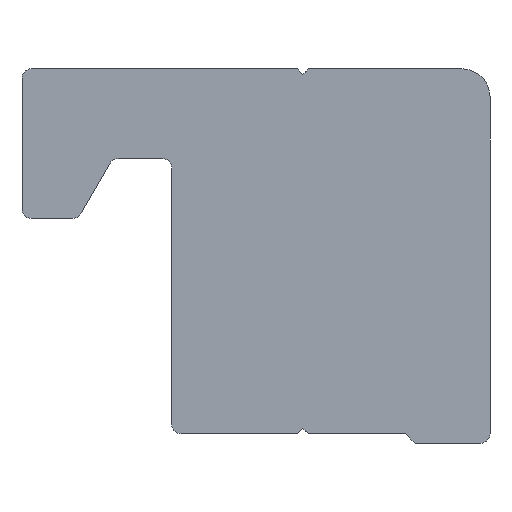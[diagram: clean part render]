
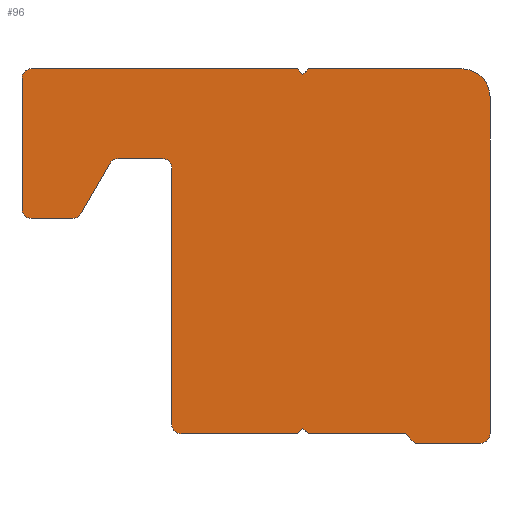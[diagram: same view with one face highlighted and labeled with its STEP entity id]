
A CAD part, front view. The second image highlights one B-rep face of the part: STEP entity #96.
In plain terms, the highlighted planar face has unit normal (0, -1, 0).
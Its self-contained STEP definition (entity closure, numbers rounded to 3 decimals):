
#96=ADVANCED_FACE('',(#210),#211,.T.);
#210=FACE_OUTER_BOUND('',#343,.T.);
#211=PLANE('',#344);
#343=EDGE_LOOP('',(#555,#556,#557,#558,#559,#560,#561,#562,#563,#564,#565,#566,#567,#568,#569,#570,#571,#572,#573,#574,#575,#576,#577,#578));
#344=AXIS2_PLACEMENT_3D('',#579,#580,#581);
#555=ORIENTED_EDGE('',*,*,#882,.T.);
#556=ORIENTED_EDGE('',*,*,#883,.T.);
#557=ORIENTED_EDGE('',*,*,#884,.T.);
#558=ORIENTED_EDGE('',*,*,#853,.T.);
#559=ORIENTED_EDGE('',*,*,#876,.T.);
#560=ORIENTED_EDGE('',*,*,#885,.T.);
#561=ORIENTED_EDGE('',*,*,#886,.T.);
#562=ORIENTED_EDGE('',*,*,#865,.T.);
#563=ORIENTED_EDGE('',*,*,#887,.T.);
#564=ORIENTED_EDGE('',*,*,#833,.T.);
#565=ORIENTED_EDGE('',*,*,#826,.T.);
#566=ORIENTED_EDGE('',*,*,#869,.T.);
#567=ORIENTED_EDGE('',*,*,#808,.T.);
#568=ORIENTED_EDGE('',*,*,#888,.T.);
#569=ORIENTED_EDGE('',*,*,#889,.T.);
#570=ORIENTED_EDGE('',*,*,#890,.T.);
#571=ORIENTED_EDGE('',*,*,#838,.T.);
#572=ORIENTED_EDGE('',*,*,#891,.T.);
#573=ORIENTED_EDGE('',*,*,#879,.T.);
#574=ORIENTED_EDGE('',*,*,#817,.T.);
#575=ORIENTED_EDGE('',*,*,#861,.T.);
#576=ORIENTED_EDGE('',*,*,#892,.T.);
#577=ORIENTED_EDGE('',*,*,#847,.T.);
#578=ORIENTED_EDGE('',*,*,#893,.T.);
#579=CARTESIAN_POINT('',(0.5,0.,-14.2));
#580=DIRECTION('',(0.0,-1.0,0.0));
#581=DIRECTION('',(1.0,0.0,0.0));
#808=EDGE_CURVE('',#957,#962,#964,.T.);
#817=EDGE_CURVE('',#980,#978,#981,.T.);
#826=EDGE_CURVE('',#996,#994,#997,.T.);
#833=EDGE_CURVE('',#1008,#996,#1009,.T.);
#838=EDGE_CURVE('',#1017,#1015,#1018,.T.);
#847=EDGE_CURVE('',#1032,#1030,#1033,.T.);
#853=EDGE_CURVE('',#1036,#1041,#1043,.T.);
#861=EDGE_CURVE('',#978,#1053,#1055,.T.);
#865=EDGE_CURVE('',#1062,#1060,#1063,.T.);
#869=EDGE_CURVE('',#994,#957,#1067,.T.);
#876=EDGE_CURVE('',#1041,#1076,#1078,.T.);
#879=EDGE_CURVE('',#1082,#980,#1083,.T.);
#882=EDGE_CURVE('',#1086,#1087,#1088,.T.);
#883=EDGE_CURVE('',#1087,#1089,#1090,.T.);
#884=EDGE_CURVE('',#1089,#1036,#1091,.T.);
#885=EDGE_CURVE('',#1076,#1092,#1093,.T.);
#886=EDGE_CURVE('',#1092,#1062,#1094,.T.);
#887=EDGE_CURVE('',#1060,#1008,#1095,.T.);
#888=EDGE_CURVE('',#962,#1096,#1097,.T.);
#889=EDGE_CURVE('',#1096,#1098,#1099,.T.);
#890=EDGE_CURVE('',#1098,#1017,#1100,.T.);
#891=EDGE_CURVE('',#1015,#1082,#1101,.T.);
#892=EDGE_CURVE('',#1053,#1032,#1102,.T.);
#893=EDGE_CURVE('',#1030,#1086,#1103,.T.);
#957=VERTEX_POINT('',#1185);
#962=VERTEX_POINT('',#1191);
#964=LINE('',#1194,#1195);
#978=VERTEX_POINT('',#1213);
#980=VERTEX_POINT('',#1216);
#981=LINE('',#1217,#1218);
#994=VERTEX_POINT('',#1233);
#996=VERTEX_POINT('',#1236);
#997=LINE('',#1237,#1238);
#1008=VERTEX_POINT('',#1252);
#1009=CIRCLE('',#1253,1.5);
#1015=VERTEX_POINT('',#1260);
#1017=VERTEX_POINT('',#1263);
#1018=CIRCLE('',#1264,0.5);
#1030=VERTEX_POINT('',#1278);
#1032=VERTEX_POINT('',#1281);
#1033=CIRCLE('',#1282,0.5);
#1036=VERTEX_POINT('',#1286);
#1041=VERTEX_POINT('',#1292);
#1043=LINE('',#1295,#1296);
#1053=VERTEX_POINT('',#1308);
#1055=CIRCLE('',#1311,0.5);
#1060=VERTEX_POINT('',#1316);
#1062=VERTEX_POINT('',#1319);
#1063=CIRCLE('',#1320,0.5);
#1067=LINE('',#1325,#1326);
#1076=VERTEX_POINT('',#1337);
#1078=LINE('',#1340,#1341);
#1082=VERTEX_POINT('',#1345);
#1083=CIRCLE('',#1346,0.5);
#1086=VERTEX_POINT('',#1350);
#1087=VERTEX_POINT('',#1351);
#1088=CIRCLE('',#1352,0.5);
#1089=VERTEX_POINT('',#1353);
#1090=LINE('',#1354,#1355);
#1091=LINE('',#1356,#1357);
#1092=VERTEX_POINT('',#1358);
#1093=LINE('',#1359,#1360);
#1094=LINE('',#1361,#1362);
#1095=LINE('',#1363,#1364);
#1096=VERTEX_POINT('',#1365);
#1097=LINE('',#1366,#1367);
#1098=VERTEX_POINT('',#1368);
#1099=CIRCLE('',#1369,0.5);
#1100=LINE('',#1370,#1371);
#1101=LINE('',#1372,#1373);
#1102=LINE('',#1374,#1375);
#1103=LINE('',#1376,#1377);
#1185=CARTESIAN_POINT('',(7.,0.,4.5));
#1191=CARTESIAN_POINT('',(6.7,0.,4.8));
#1194=CARTESIAN_POINT('',(7.,0.,4.5));
#1195=VECTOR('',#1485,1.0);
#1213=CARTESIAN_POINT('',(-3.297,0.,-0.25));
#1216=CARTESIAN_POINT('',(-4.856,0.,-2.95));
#1217=CARTESIAN_POINT('',(-4.856,0.,-2.95));
#1218=VECTOR('',#1494,1.0);
#1233=CARTESIAN_POINT('',(7.3,0.,4.8));
#1236=CARTESIAN_POINT('',(15.5,0.,4.8));
#1237=CARTESIAN_POINT('',(15.5,0.,4.8));
#1238=VECTOR('',#1507,1.0);
#1252=CARTESIAN_POINT('',(17.,0.,3.3));
#1253=AXIS2_PLACEMENT_3D('',#1517,#1518,#1519);
#1260=CARTESIAN_POINT('',(-7.5,0.,-3.2));
#1263=CARTESIAN_POINT('',(-8.,0.,-2.7));
#1264=AXIS2_PLACEMENT_3D('',#1525,#1526,#1527);
#1278=CARTESIAN_POINT('',(0.,0.,-0.5));
#1281=CARTESIAN_POINT('',(-0.5,0.,0.));
#1282=AXIS2_PLACEMENT_3D('',#1540,#1541,#1542);
#1286=CARTESIAN_POINT('',(7.,0.,-14.4));
#1292=CARTESIAN_POINT('',(7.3,0.,-14.7));
#1295=CARTESIAN_POINT('',(7.,0.,-14.4));
#1296=VECTOR('',#1549,1.0);
#1308=CARTESIAN_POINT('',(-2.864,0.,0.));
#1311=AXIS2_PLACEMENT_3D('',#1559,#1560,#1561);
#1316=CARTESIAN_POINT('',(17.,0.,-14.7));
#1319=CARTESIAN_POINT('',(16.5,0.,-15.2));
#1320=AXIS2_PLACEMENT_3D('',#1566,#1567,#1568);
#1325=CARTESIAN_POINT('',(7.3,0.,4.8));
#1326=VECTOR('',#1573,1.0);
#1337=CARTESIAN_POINT('',(12.5,0.,-14.7));
#1340=CARTESIAN_POINT('',(7.3,0.,-14.7));
#1341=VECTOR('',#1583,1.0);
#1345=CARTESIAN_POINT('',(-5.289,0.,-3.2));
#1346=AXIS2_PLACEMENT_3D('',#1587,#1588,#1589);
#1350=CARTESIAN_POINT('',(0.,0.,-14.2));
#1351=CARTESIAN_POINT('',(0.5,0.,-14.7));
#1352=AXIS2_PLACEMENT_3D('',#1591,#1592,#1593);
#1353=CARTESIAN_POINT('',(6.7,0.,-14.7));
#1354=CARTESIAN_POINT('',(0.5,0.,-14.7));
#1355=VECTOR('',#1594,1.0);
#1356=CARTESIAN_POINT('',(6.7,0.,-14.7));
#1357=VECTOR('',#1595,1.0);
#1358=CARTESIAN_POINT('',(13.,0.,-15.2));
#1359=CARTESIAN_POINT('',(12.5,0.,-14.7));
#1360=VECTOR('',#1596,1.0);
#1361=CARTESIAN_POINT('',(13.,0.,-15.2));
#1362=VECTOR('',#1597,1.0);
#1363=CARTESIAN_POINT('',(17.,0.,-14.7));
#1364=VECTOR('',#1598,1.0);
#1365=CARTESIAN_POINT('',(-7.5,0.,4.8));
#1366=CARTESIAN_POINT('',(6.7,0.,4.8));
#1367=VECTOR('',#1599,1.0);
#1368=CARTESIAN_POINT('',(-8.,0.,4.3));
#1369=AXIS2_PLACEMENT_3D('',#1600,#1601,#1602);
#1370=CARTESIAN_POINT('',(-8.,0.,4.3));
#1371=VECTOR('',#1603,1.0);
#1372=CARTESIAN_POINT('',(-7.5,0.,-3.2));
#1373=VECTOR('',#1604,1.0);
#1374=CARTESIAN_POINT('',(-2.864,0.,0.));
#1375=VECTOR('',#1605,1.0);
#1376=CARTESIAN_POINT('',(0.,0.,-0.5));
#1377=VECTOR('',#1606,1.0);
#1485=DIRECTION('',(-0.707,0.0,0.707));
#1494=DIRECTION('',(0.5,0.0,0.866));
#1507=DIRECTION('',(-1.0,0.0,0.0));
#1517=CARTESIAN_POINT('',(15.5,0.,3.3));
#1518=DIRECTION('',(0.0,-1.0,0.0));
#1519=DIRECTION('',(1.0,0.0,0.0));
#1525=CARTESIAN_POINT('',(-7.5,0.,-2.7));
#1526=DIRECTION('',(0.0,-1.0,0.0));
#1527=DIRECTION('',(1.0,0.0,0.0));
#1540=CARTESIAN_POINT('',(-0.5,0.,-0.5));
#1541=DIRECTION('',(0.0,1.0,0.0));
#1542=DIRECTION('',(-1.0,0.0,0.0));
#1549=DIRECTION('',(0.707,0.0,-0.707));
#1559=CARTESIAN_POINT('',(-2.864,0.,-0.5));
#1560=DIRECTION('',(0.0,1.0,0.0));
#1561=DIRECTION('',(-1.0,0.0,0.0));
#1566=CARTESIAN_POINT('',(16.5,0.,-14.7));
#1567=DIRECTION('',(0.0,-1.0,0.0));
#1568=DIRECTION('',(1.0,0.0,0.0));
#1573=DIRECTION('',(-0.707,0.0,-0.707));
#1583=DIRECTION('',(1.0,0.0,0.0));
#1587=CARTESIAN_POINT('',(-5.289,0.,-2.7));
#1588=DIRECTION('',(0.0,-1.0,0.0));
#1589=DIRECTION('',(1.0,0.0,0.0));
#1591=CARTESIAN_POINT('',(0.5,0.,-14.2));
#1592=DIRECTION('',(0.0,-1.0,0.0));
#1593=DIRECTION('',(1.0,0.0,0.0));
#1594=DIRECTION('',(1.0,0.0,0.0));
#1595=DIRECTION('',(0.707,0.0,0.707));
#1596=DIRECTION('',(0.707,0.0,-0.707));
#1597=DIRECTION('',(1.0,0.0,0.0));
#1598=DIRECTION('',(0.0,0.0,1.0));
#1599=DIRECTION('',(-1.0,0.0,0.0));
#1600=CARTESIAN_POINT('',(-7.5,0.,4.3));
#1601=DIRECTION('',(0.0,-1.0,0.0));
#1602=DIRECTION('',(1.0,0.0,0.0));
#1603=DIRECTION('',(0.0,0.0,-1.0));
#1604=DIRECTION('',(1.0,0.0,0.0));
#1605=DIRECTION('',(1.0,0.0,0.0));
#1606=DIRECTION('',(0.0,0.0,-1.0));
